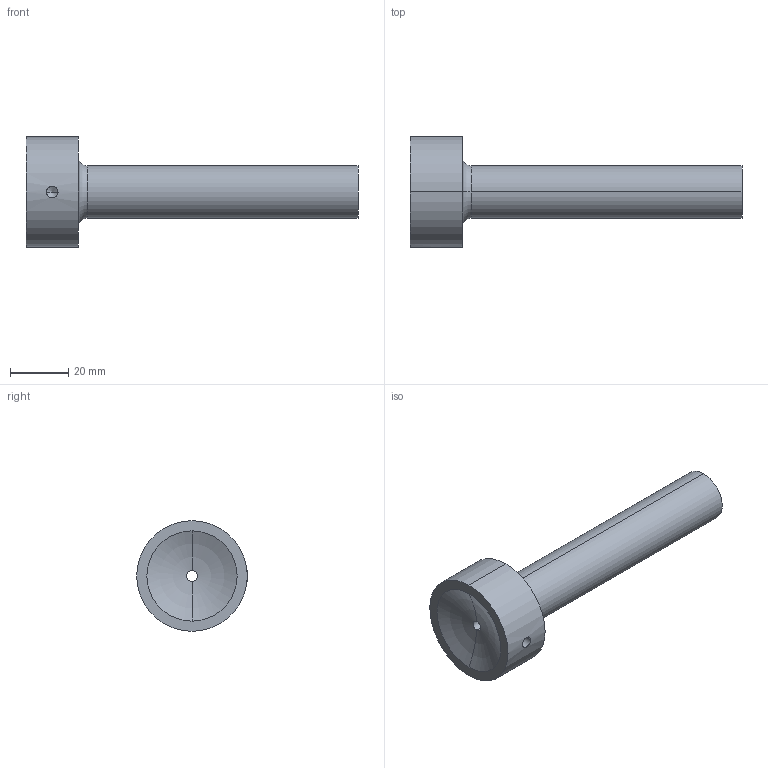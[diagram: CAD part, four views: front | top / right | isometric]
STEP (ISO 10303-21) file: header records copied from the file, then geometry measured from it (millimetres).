
FILE_DESCRIPTION (( 'STEP AP214' ), '1' );
FILE_NAME ('BR51 18x96x3,5x40.STEP', '2019-06-05T15:26:17', ( 'August' ), ( '' ), 'SwSTEP 2.0', 'SolidWorks 2018', '' );
FILE_SCHEMA (( 'AUTOMOTIVE_DESIGN' ));
Length unit declared in the file: millimetre
Products named in the file (1): BR51 18x96x3,5x40
Bounding box: 114 x 38 x 38 mm (x, y, z)
Volume: 39970.9 mm3; surface area: 11964.5 mm2
Topology: 1 solids, 1 shells, 17 faces, 36 edges, 21 vertices
Faces by surface type: cylinder 6, cone 4, torus 4, plane 3
Entity records: 538 total; most frequent: CARTESIAN_POINT 127, DIRECTION 90, ORIENTED_EDGE 68, AXIS2_PLACEMENT_3D 40, EDGE_CURVE 34, CIRCLE 22, VERTEX_POINT 21, EDGE_LOOP 21
